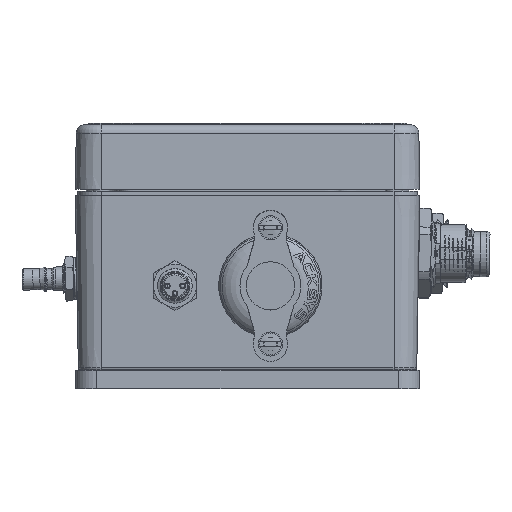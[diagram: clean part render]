
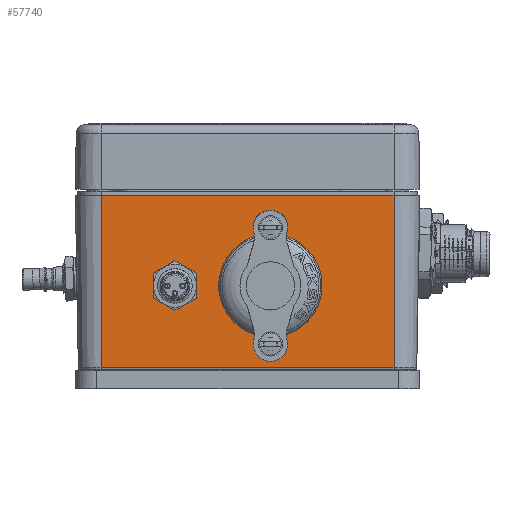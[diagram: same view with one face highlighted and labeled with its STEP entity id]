
A CAD part, left-side view. The second image highlights one B-rep face of the part: STEP entity #57740.
In plain terms, the highlighted planar face has unit normal (-1, 0, -0.018).
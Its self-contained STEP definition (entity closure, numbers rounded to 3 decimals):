
#2844=FACE_BOUND('',#7663,.T.);
#2845=FACE_BOUND('',#7664,.T.);
#4280=FACE_OUTER_BOUND('',#7662,.T.);
#7662=EDGE_LOOP('',(#44256,#44257,#44258,#44259));
#7663=EDGE_LOOP('',(#44260));
#7664=EDGE_LOOP('',(#44261,#44262,#44263,#44264,#44265,#44266,#44267,#44268));
#9997=CIRCLE('',#60946,4.);
#10055=CIRCLE('',#61053,12.);
#10057=CIRCLE('',#61056,4.);
#10059=CIRCLE('',#61059,4.);
#10061=CIRCLE('',#61062,4.);
#10097=CIRCLE('',#61121,12.);
#10103=CIRCLE('',#61133,4.);
#10104=CIRCLE('',#61136,4.);
#10105=CIRCLE('',#61138,4.);
#15341=LINE('',#91066,#20589);
#15342=LINE('',#91068,#20590);
#15343=LINE('',#91070,#20591);
#15344=LINE('',#91071,#20592);
#20589=VECTOR('',#71521,1.);
#20590=VECTOR('',#71522,1.);
#20591=VECTOR('',#71523,1.);
#20592=VECTOR('',#71524,1.);
#24749=VERTEX_POINT('',#88919);
#24818=VERTEX_POINT('',#89196);
#24819=VERTEX_POINT('',#89197);
#24822=VERTEX_POINT('',#89205);
#24828=VERTEX_POINT('',#89235);
#24830=VERTEX_POINT('',#89241);
#24980=VERTEX_POINT('',#90063);
#24988=VERTEX_POINT('',#90119);
#24989=VERTEX_POINT('',#90125);
#25118=VERTEX_POINT('',#91064);
#25119=VERTEX_POINT('',#91065);
#25120=VERTEX_POINT('',#91067);
#25121=VERTEX_POINT('',#91069);
#31394=EDGE_CURVE('',#24749,#24749,#9997,.T.);
#31504=EDGE_CURVE('',#24818,#24819,#10055,.T.);
#31508=EDGE_CURVE('',#24822,#24818,#10057,.T.);
#31515=EDGE_CURVE('',#24828,#24822,#10059,.T.);
#31518=EDGE_CURVE('',#24830,#24828,#10061,.T.);
#31679=EDGE_CURVE('',#24980,#24830,#10097,.T.);
#31693=EDGE_CURVE('',#24988,#24980,#10103,.T.);
#31696=EDGE_CURVE('',#24989,#24988,#10104,.T.);
#31698=EDGE_CURVE('',#24819,#24989,#10105,.T.);
#31955=EDGE_CURVE('',#25118,#25119,#15341,.T.);
#31956=EDGE_CURVE('',#25120,#25118,#15342,.T.);
#31957=EDGE_CURVE('',#25120,#25121,#15343,.T.);
#31958=EDGE_CURVE('',#25121,#25119,#15344,.T.);
#44256=ORIENTED_EDGE('',*,*,#31955,.F.);
#44257=ORIENTED_EDGE('',*,*,#31956,.F.);
#44258=ORIENTED_EDGE('',*,*,#31957,.T.);
#44259=ORIENTED_EDGE('',*,*,#31958,.T.);
#44260=ORIENTED_EDGE('',*,*,#31394,.T.);
#44261=ORIENTED_EDGE('',*,*,#31518,.T.);
#44262=ORIENTED_EDGE('',*,*,#31515,.T.);
#44263=ORIENTED_EDGE('',*,*,#31508,.T.);
#44264=ORIENTED_EDGE('',*,*,#31504,.T.);
#44265=ORIENTED_EDGE('',*,*,#31698,.T.);
#44266=ORIENTED_EDGE('',*,*,#31696,.T.);
#44267=ORIENTED_EDGE('',*,*,#31693,.T.);
#44268=ORIENTED_EDGE('',*,*,#31679,.T.);
#55795=PLANE('',#61308);
#57740=ADVANCED_FACE('',(#4280,#2844,#2845),#55795,.T.);
#60946=AXIS2_PLACEMENT_3D('',#88921,#70618,#70619);
#61053=AXIS2_PLACEMENT_3D('',#89198,#70860,#70861);
#61056=AXIS2_PLACEMENT_3D('',#89206,#70868,#70869);
#61059=AXIS2_PLACEMENT_3D('',#89236,#70876,#70877);
#61062=AXIS2_PLACEMENT_3D('',#89242,#70883,#70884);
#61121=AXIS2_PLACEMENT_3D('',#90064,#71010,#71011);
#61133=AXIS2_PLACEMENT_3D('',#90120,#71038,#71039);
#61136=AXIS2_PLACEMENT_3D('',#90126,#71046,#71047);
#61138=AXIS2_PLACEMENT_3D('',#90129,#71051,#71052);
#61308=AXIS2_PLACEMENT_3D('',#91063,#71519,#71520);
#70618=DIRECTION('center_axis',(1.,0.,
0.017));
#70619=DIRECTION('ref_axis',(0.017,0.,-1.));
#70860=DIRECTION('center_axis',(1.,0.,
0.017));
#70861=DIRECTION('ref_axis',(0.,1.,0.));
#70868=DIRECTION('center_axis',(-1.,0.,
-0.017));
#70869=DIRECTION('ref_axis',(0.,1.,0.001));
#70876=DIRECTION('center_axis',(1.,0.,
0.017));
#70877=DIRECTION('ref_axis',(-0.017,0.,
1.));
#70883=DIRECTION('center_axis',(-1.,0.,
-0.017));
#70884=DIRECTION('ref_axis',(0.,-1.,0.001));
#71010=DIRECTION('center_axis',(1.,0.,
0.017));
#71011=DIRECTION('ref_axis',(0.,1.,0.));
#71038=DIRECTION('center_axis',(-1.,0.,
-0.017));
#71039=DIRECTION('ref_axis',(0.,-1.,-0.001));
#71046=DIRECTION('center_axis',(1.,0.,
0.017));
#71047=DIRECTION('ref_axis',(0.017,0.,-1.));
#71051=DIRECTION('center_axis',(-1.,0.,
-0.017));
#71052=DIRECTION('ref_axis',(0.,1.,-0.001));
#71519=DIRECTION('center_axis',(-1.,0.,
-0.017));
#71520=DIRECTION('ref_axis',(0.,1.,0.));
#71521=DIRECTION('',(0.,1.,0.));
#71522=DIRECTION('',(0.017,0.,-1.));
#71523=DIRECTION('',(0.,1.,0.));
#71524=DIRECTION('',(0.017,0.,-1.));
#88919=CARTESIAN_POINT('',(15.313,46.864,23.625));
#88921=CARTESIAN_POINT('Origin',(15.383,46.864,19.626));
#89196=CARTESIAN_POINT('',(15.183,20.999,31.061));
#89197=CARTESIAN_POINT('',(15.582,20.999,8.225));
#89198=CARTESIAN_POINT('Origin',(15.382,24.686,19.643));
#89205=CARTESIAN_POINT('',(15.166,20.844,32.027));
#89206=CARTESIAN_POINT('Origin',(15.186,17.002,30.913));
#89235=CARTESIAN_POINT('',(15.166,28.527,32.027));
#89236=CARTESIAN_POINT('Origin',(15.147,24.686,33.14));
#89241=CARTESIAN_POINT('',(15.183,28.372,31.061));
#89242=CARTESIAN_POINT('Origin',(15.186,32.369,30.913));
#90063=CARTESIAN_POINT('',(15.582,28.372,8.225));
#90064=CARTESIAN_POINT('Origin',(15.382,24.686,19.643));
#90119=CARTESIAN_POINT('',(15.599,28.527,7.258));
#90120=CARTESIAN_POINT('Origin',(15.579,32.369,8.372));
#90125=CARTESIAN_POINT('',(15.599,20.844,7.258));
#90126=CARTESIAN_POINT('Origin',(15.618,24.686,6.145));
#90129=CARTESIAN_POINT('Origin',(15.579,17.002,8.372));
#91063=CARTESIAN_POINT('Origin',(15.,30.,41.552));
#91064=CARTESIAN_POINT('',(15.716,-4.,0.535));
#91065=CARTESIAN_POINT('',(15.716,64.,0.535));
#91066=CARTESIAN_POINT('',(15.716,30.,0.535));
#91067=CARTESIAN_POINT('',(15.017,-4.,40.552));
#91068=CARTESIAN_POINT('',(15.,-4.,41.552));
#91069=CARTESIAN_POINT('',(15.017,64.,40.552));
#91070=CARTESIAN_POINT('',(15.017,30.,40.552));
#91071=CARTESIAN_POINT('',(15.,64.,41.552));
